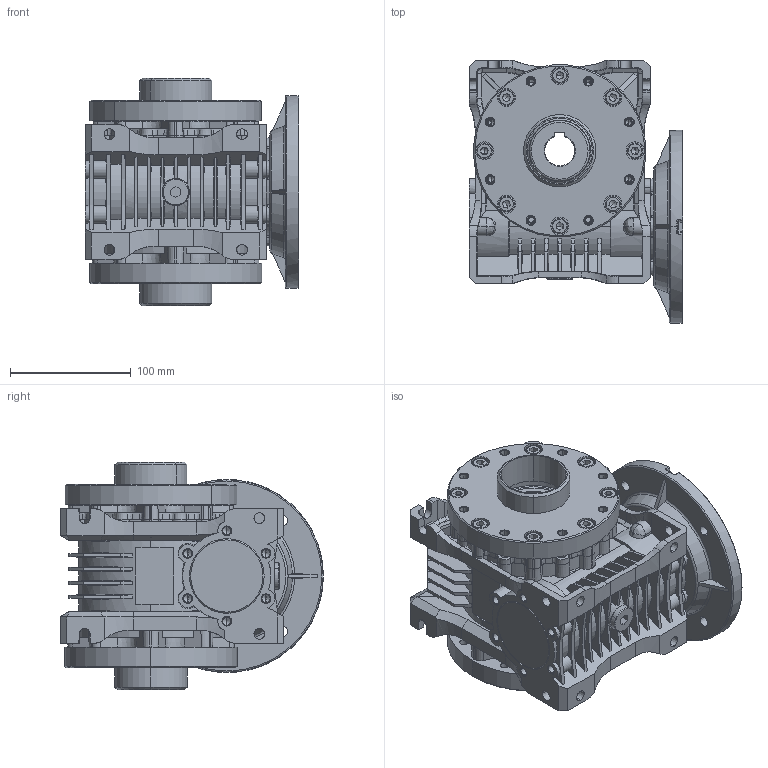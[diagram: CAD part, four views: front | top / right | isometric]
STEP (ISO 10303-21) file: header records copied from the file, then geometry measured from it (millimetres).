
FILE_DESCRIPTION (( 'STEP AP203' ), '1' );
FILE_NAME ('MRP-63_160-14-SO_1-3D.STEP', '2024-10-28T13:20:20', ( '' ), ( '' ), 'SwSTEP 2.0', 'SolidWorks 2022', '' );
FILE_SCHEMA (( 'CONFIG_CONTROL_DESIGN' ));
Length unit declared in the file: millimetre
Products named in the file (1): MRP-63_160-14-SO_1-3D
Bounding box: 177 x 218.21 x 189 mm (x, y, z)
Volume: 2580747.9 mm3; surface area: 427040.1 mm2
Topology: 1 solids, 75 shells, 3346 faces, 8388 edges, 5224 vertices
Faces by surface type: plane 1213, cone 946, cylinder 608, torus 297, bspline 244, sphere 38
Entity records: 109814 total; most frequent: CARTESIAN_POINT 32273, ORIENTED_EDGE 16548, DIRECTION 15997, EDGE_CURVE 8274, AXIS2_PLACEMENT_3D 6247, VERTEX_POINT 5224, EDGE_LOOP 3600, LINE 3503
